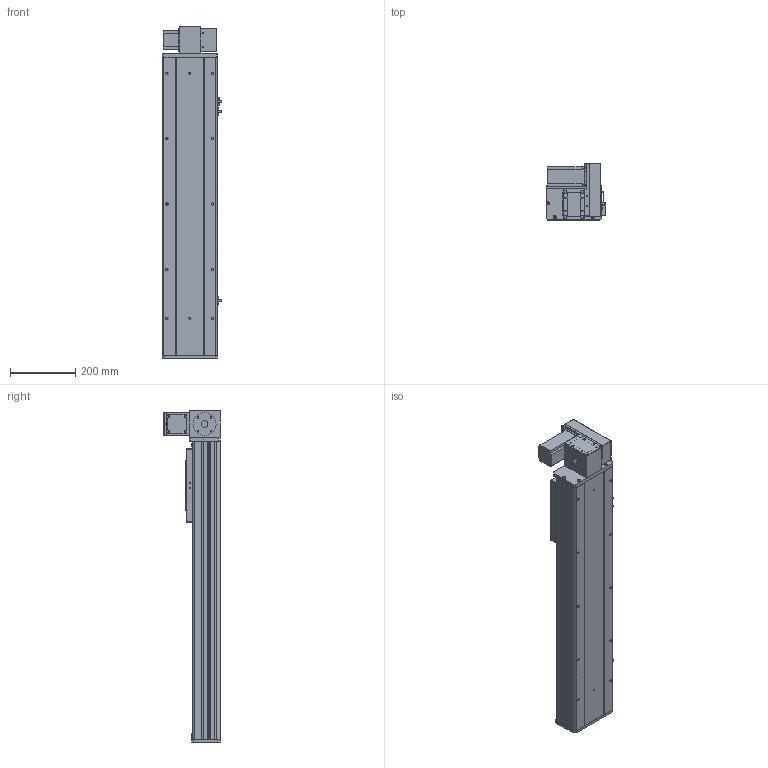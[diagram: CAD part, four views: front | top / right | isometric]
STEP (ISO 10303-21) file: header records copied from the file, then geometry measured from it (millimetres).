
FILE_DESCRIPTION (( 'STEP AP203' ), '1' );
FILE_NAME ('Y170CB-D105-S600-UR-P400W.STEP', '2020-02-20T03:54:59', ( '微软用户' ), ( '微软中国' ), 'SwSTEP 2.0', 'SolidWorks 2017', '' );
FILE_SCHEMA (( 'CONFIG_CONTROL_DESIGN' ));
Length unit declared in the file: millimetre
Products named in the file (18): 70CB-詩湍--; san松下电机400不带刹车----; Y100-135俋离換覜ん--; 70CB-掛极-; Y170CB-陔俋离換覜結え---; --70CB --喘謫眊楊擘啣-; Y1埴倛裔; 70CB-耜裔啣-; 17B-耜蚾蟀諉啣----; 70C--詩湍揤踡え-; 00B-俋欶BM--163; 70CB--耜裔; 70B喘謫眊----; 70C-雄赽釱-奻-; B-源倛裔啣; Y170CB-D105-S600-UR-P400W; 0C--雄赽釱俋欶-170; 0B-萇儂楊擘啣
Assembly tree (21 placements, depth 2):
  Y170CB-D105-S600-UR-P400W
    B-源倛裔啣
    0B-萇儂楊擘啣
    san松下电机400不带刹车----
    70CB-掛极-
    --70CB --喘謫眊楊擘啣-
    70CB-耜裔啣-  x2
    70C--詩湍揤踡え-  x2
    70CB--耜裔
    70C-雄赽釱-奻-
    0C--雄赽釱俋欶-170
    70CB-詩湍--
    Y100-135俋离換覜ん--  x3
    Y170CB-陔俋离換覜結え---
    Y1埴倛裔
    17B-耜蚾蟀諉啣----
    00B-俋欶BM--163
    70B喘謫眊----
Bounding box: 183.5 x 174 x 1016 mm (x, y, z)
Volume: 4964632.3 mm3; surface area: 1770322.6 mm2
Topology: 21 solids, 21 shells, 991 faces, 2645 edges, 1754 vertices
Faces by surface type: cylinder 505, plane 462, cone 24
Entity records: 31452 total; most frequent: CARTESIAN_POINT 5736, DIRECTION 5114, ORIENTED_EDGE 4772, EDGE_CURVE 2386, AXIS2_PLACEMENT_3D 1868, VERTEX_POINT 1584, VECTOR 1378, LINE 1378
